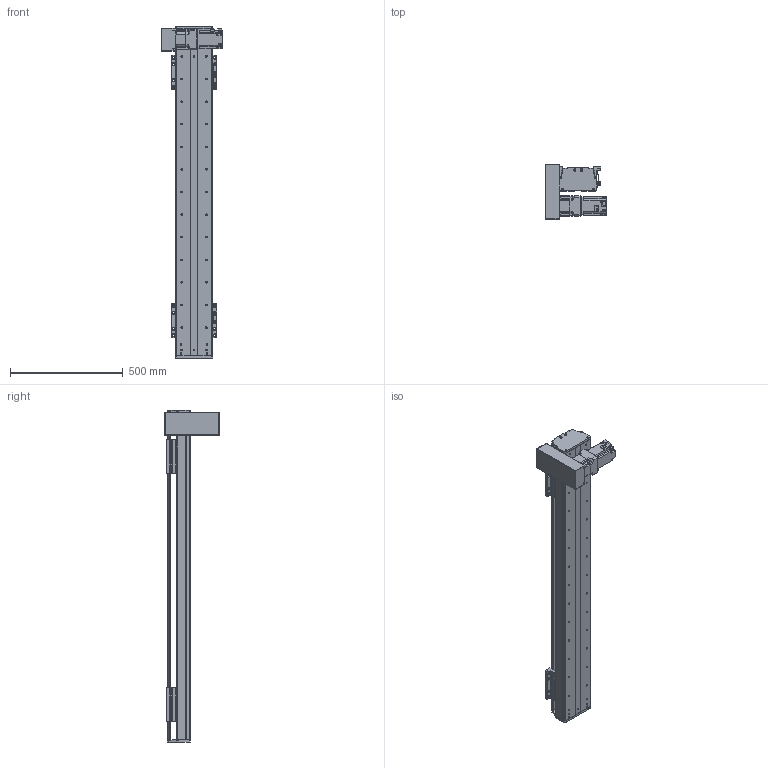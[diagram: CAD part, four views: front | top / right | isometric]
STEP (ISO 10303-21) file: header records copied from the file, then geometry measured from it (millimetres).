
FILE_DESCRIPTION(/* description */ (''),/* implementation_level */ '2;1');
FILE_NAME(/* name */ 'C:\Users\PC\Desktop\3D도면\STEP\DSB165-DL7G-W1100-R.stp',/* time_stamp */ '2018-06-25T15:37:39+09:00',/* author */ ('PC'),/* organization */ (''),/* preprocessor_version */ 'ST-DEVELOPER v16.5',/* originating_system */ 'Autodesk Inventor 2017',/* authorisation */ '');
FILE_SCHEMA (('AUTOMOTIVE_DESIGN { 1 0 10303 214 3 1 1 }'));
Length unit declared in the file: millimetre
Products named in the file (12): DSB165-L; DSR165-BASE_S; hg-kr73_; ab0901-p0401300102; 11-DBS165 BELT COVER; DBS165-COVER; DBS165-COVER_1; DBS165-UP COVER; DBS165-TABLE(MSA20S); DSR126-SENSOR DOG; SENSOR BRACKET(EE-SX674A); pm-y65_step
Assembly tree (16 placements, depth 2):
  DSB165-L
    DSR165-BASE_S
    hg-kr73_
    ab0901-p0401300102
    11-DBS165 BELT COVER
    DBS165-COVER
    DBS165-COVER_1
    DBS165-UP COVER
    DBS165-TABLE(MSA20S)  x2
    DSR126-SENSOR DOG
    pm-y65_step  x3
    SENSOR BRACKET(EE-SX674A)  x3
Bounding box: 270 x 242 x 1470 mm (x, y, z)
Volume: 9325227.6 mm3; surface area: 2162860.2 mm2
Topology: 17 solids, 22 shells, 1679 faces, 4505 edges, 2970 vertices
Faces by surface type: plane 926, cylinder 625, cone 116, sphere 8, torus 4
Full cylindrical faces by diameter (mm): 2.459 x20, 3.5 x6, 4.134 x42, 4.5 x18, 5 x27, 5.5 x36, 5.9 x4, 6 x8, 6.6 x14, 6.647 x44, 6.8 x1, 7 x4, 7.6 x4, 8 x1, 8.4 x1, 8.5 x24, 8.7 x1, 9.5 x32, 11 x6, 14 x16, 19 x1, 22 x1, 24 x1, 25 x1, 28 x1, 67 x1, 70 x2, 80 x1
Entity records: 35709 total; most frequent: DIRECTION 6316, CARTESIAN_POINT 6115, ORIENTED_EDGE 5558, EDGE_CURVE 2784, AXIS2_PLACEMENT_3D 2328, VERTEX_POINT 1989, EDGE_LOOP 1755, LINE 1660
